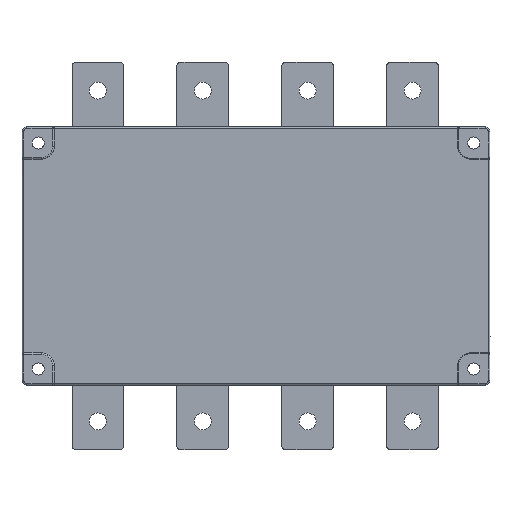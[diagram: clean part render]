
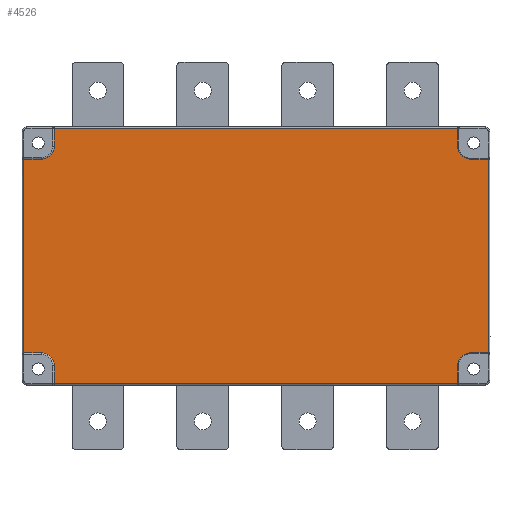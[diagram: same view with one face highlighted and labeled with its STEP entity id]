
A CAD part, front view. The second image highlights one B-rep face of the part: STEP entity #4526.
In plain terms, the highlighted planar face has unit normal (0, -1, 0).
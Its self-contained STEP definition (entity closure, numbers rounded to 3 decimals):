
#1021=DIRECTION('',(-1.,0.,0.));
#1022=VECTOR('',#1021,11.);
#1023=CARTESIAN_POINT('',(-163.,2.,60.));
#1024=LINE('',#1023,#1022);
#1046=DIRECTION('',(0.,0.,-1.));
#1047=VECTOR('',#1046,120.);
#1048=CARTESIAN_POINT('',(-174.,2.,60.));
#1049=LINE('',#1048,#1047);
#1050=CARTESIAN_POINT('',(-163.,2.,68.));
#1051=DIRECTION('',(0.,-1.,0.));
#1052=DIRECTION('',(0.,0.,-1.));
#1053=AXIS2_PLACEMENT_3D('',#1050,#1051,#1052);
#1055=DIRECTION('',(0.,0.,1.));
#1056=VECTOR('',#1055,11.);
#1057=CARTESIAN_POINT('',(-155.,2.,68.));
#1058=LINE('',#1057,#1056);
#1059=DIRECTION('',(0.,0.,-1.));
#1060=VECTOR('',#1059,11.);
#1061=CARTESIAN_POINT('',(95.,2.,79.));
#1062=LINE('',#1061,#1060);
#1063=CARTESIAN_POINT('',(103.,2.,68.));
#1064=DIRECTION('',(0.,-1.,0.));
#1065=DIRECTION('',(-1.,0.,0.));
#1066=AXIS2_PLACEMENT_3D('',#1063,#1064,#1065);
#1068=DIRECTION('',(1.,0.,0.));
#1069=VECTOR('',#1068,11.);
#1070=CARTESIAN_POINT('',(103.,2.,60.));
#1071=LINE('',#1070,#1069);
#1072=DIRECTION('',(-1.,0.,0.));
#1073=VECTOR('',#1072,11.);
#1074=CARTESIAN_POINT('',(114.,2.,-60.));
#1075=LINE('',#1074,#1073);
#1076=CARTESIAN_POINT('',(103.,2.,-68.));
#1077=DIRECTION('',(0.,-1.,0.));
#1078=DIRECTION('',(0.,0.,1.));
#1079=AXIS2_PLACEMENT_3D('',#1076,#1077,#1078);
#1081=DIRECTION('',(0.,0.,-1.));
#1082=VECTOR('',#1081,11.);
#1083=CARTESIAN_POINT('',(95.,2.,-68.));
#1084=LINE('',#1083,#1082);
#1085=CARTESIAN_POINT('',(-163.,2.,-68.));
#1086=DIRECTION('',(0.,-1.,0.));
#1087=DIRECTION('',(1.,0.,0.));
#1088=AXIS2_PLACEMENT_3D('',#1085,#1086,#1087);
#1090=DIRECTION('',(-1.,0.,0.));
#1091=VECTOR('',#1090,11.);
#1092=CARTESIAN_POINT('',(-163.,2.,-60.));
#1093=LINE('',#1092,#1091);
#1094=DIRECTION('',(-1.,0.,0.));
#1095=VECTOR('',#1094,250.);
#1096=CARTESIAN_POINT('',(95.,2.,79.));
#1097=LINE('',#1096,#1095);
#1554=DIRECTION('',(1.,0.,0.));
#1555=VECTOR('',#1554,250.);
#1556=CARTESIAN_POINT('',(-155.,2.,-79.));
#1557=LINE('',#1556,#1555);
#1672=DIRECTION('',(0.,0.,-1.));
#1673=VECTOR('',#1672,11.);
#1674=CARTESIAN_POINT('',(-155.,2.,-68.));
#1675=LINE('',#1674,#1673);
#1754=DIRECTION('',(0.,0.,1.));
#1755=VECTOR('',#1754,120.);
#1756=CARTESIAN_POINT('',(114.,2.,-60.));
#1757=LINE('',#1756,#1755);
#2525=CARTESIAN_POINT('',(-163.,2.,60.));
#2526=CARTESIAN_POINT('',(-174.,2.,60.));
#2527=VERTEX_POINT('',#2525);
#2528=VERTEX_POINT('',#2526);
#2529=CARTESIAN_POINT('',(-155.,2.,68.));
#2530=VERTEX_POINT('',#2529);
#2531=CARTESIAN_POINT('',(-155.,2.,79.));
#2532=VERTEX_POINT('',#2531);
#2533=CARTESIAN_POINT('',(95.,2.,79.));
#2534=VERTEX_POINT('',#2533);
#2535=CARTESIAN_POINT('',(95.,2.,68.));
#2536=VERTEX_POINT('',#2535);
#2537=CARTESIAN_POINT('',(103.,2.,60.));
#2538=VERTEX_POINT('',#2537);
#2539=CARTESIAN_POINT('',(114.,2.,60.));
#2540=VERTEX_POINT('',#2539);
#2541=CARTESIAN_POINT('',(114.,2.,-60.));
#2542=VERTEX_POINT('',#2541);
#2543=CARTESIAN_POINT('',(103.,2.,-60.));
#2544=VERTEX_POINT('',#2543);
#2545=CARTESIAN_POINT('',(95.,2.,-68.));
#2546=VERTEX_POINT('',#2545);
#2547=CARTESIAN_POINT('',(95.,2.,-79.));
#2548=VERTEX_POINT('',#2547);
#2549=CARTESIAN_POINT('',(-155.,2.,-79.));
#2550=VERTEX_POINT('',#2549);
#2551=CARTESIAN_POINT('',(-155.,2.,-68.));
#2552=VERTEX_POINT('',#2551);
#2553=CARTESIAN_POINT('',(-163.,2.,-60.));
#2554=VERTEX_POINT('',#2553);
#2555=CARTESIAN_POINT('',(-174.,2.,-60.));
#2556=VERTEX_POINT('',#2555);
#4491=CARTESIAN_POINT('',(0.,2.,0.));
#4492=DIRECTION('',(0.,-1.,0.));
#4493=DIRECTION('',(-1.,0.,0.));
#4494=AXIS2_PLACEMENT_3D('',#4491,#4492,#4493);
#4495=PLANE('',#4494);
#4496=ORIENTED_EDGE('',*,*,#4458,.F.);
#4497=ORIENTED_EDGE('',*,*,#4443,.T.);
#4498=ORIENTED_EDGE('',*,*,#4428,.T.);
#4500=ORIENTED_EDGE('',*,*,#4499,.F.);
#4502=ORIENTED_EDGE('',*,*,#4501,.T.);
#4504=ORIENTED_EDGE('',*,*,#4503,.T.);
#4506=ORIENTED_EDGE('',*,*,#4505,.T.);
#4508=ORIENTED_EDGE('',*,*,#4507,.F.);
#4510=ORIENTED_EDGE('',*,*,#4509,.T.);
#4512=ORIENTED_EDGE('',*,*,#4511,.T.);
#4514=ORIENTED_EDGE('',*,*,#4513,.T.);
#4516=ORIENTED_EDGE('',*,*,#4515,.F.);
#4518=ORIENTED_EDGE('',*,*,#4517,.F.);
#4520=ORIENTED_EDGE('',*,*,#4519,.T.);
#4522=ORIENTED_EDGE('',*,*,#4521,.T.);
#4523=ORIENTED_EDGE('',*,*,#4484,.F.);
#4524=EDGE_LOOP('',(#4496,#4497,#4498,#4500,#4502,#4504,#4506,#4508,#4510,#4512,
#4514,#4516,#4518,#4520,#4522,#4523));
#4525=FACE_OUTER_BOUND('',#4524,.F.);
#1054=CIRCLE('',#1053,8.);
#1067=CIRCLE('',#1066,8.);
#1080=CIRCLE('',#1079,8.);
#1089=CIRCLE('',#1088,8.);
#4428=EDGE_CURVE('',#2530,#2532,#1058,.T.);
#4443=EDGE_CURVE('',#2527,#2530,#1054,.T.);
#4458=EDGE_CURVE('',#2527,#2528,#1024,.T.);
#4484=EDGE_CURVE('',#2528,#2556,#1049,.T.);
#4499=EDGE_CURVE('',#2534,#2532,#1097,.T.);
#4501=EDGE_CURVE('',#2534,#2536,#1062,.T.);
#4503=EDGE_CURVE('',#2536,#2538,#1067,.T.);
#4505=EDGE_CURVE('',#2538,#2540,#1071,.T.);
#4507=EDGE_CURVE('',#2542,#2540,#1757,.T.);
#4509=EDGE_CURVE('',#2542,#2544,#1075,.T.);
#4511=EDGE_CURVE('',#2544,#2546,#1080,.T.);
#4513=EDGE_CURVE('',#2546,#2548,#1084,.T.);
#4515=EDGE_CURVE('',#2550,#2548,#1557,.T.);
#4517=EDGE_CURVE('',#2552,#2550,#1675,.T.);
#4519=EDGE_CURVE('',#2552,#2554,#1089,.T.);
#4521=EDGE_CURVE('',#2554,#2556,#1093,.T.);
#4526=ADVANCED_FACE('',(#4525),#4495,.T.);
